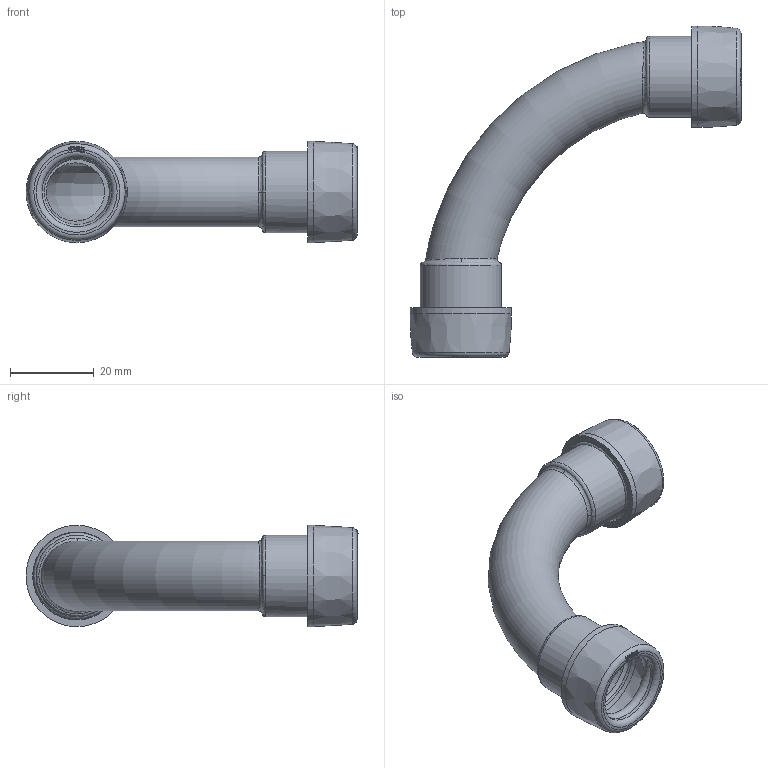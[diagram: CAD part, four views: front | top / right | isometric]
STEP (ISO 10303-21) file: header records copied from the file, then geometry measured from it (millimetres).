
FILE_DESCRIPTION(/* description */ (''),/* implementation_level */ '2;1');
FILE_NAME(/* name */ '4009413.stp',/* time_stamp */ '2017-10-02T08:14:44+02:00',/* author */ (''),/* organization */ (''),/* preprocessor_version */ 'ST-DEVELOPER v16',/* originating_system */ 'SIEMENS PLM Software NX 11.0',/* authorisation */ '');
FILE_SCHEMA (('AUTOMOTIVE_DESIGN { 1 0 10303 214 3 1 1 1 }'));
Length unit declared in the file: millimetre
Products named in the file (1): 4009413_LINKEDEXT_jt
Bounding box: 79.2 x 79.23 x 24.2 mm (x, y, z)
Surface area: 11768.2 mm2 (no closed solid volume)
Topology: 0 solids, 14 shells, 47 faces, 257 edges, 216 vertices
Faces by surface type: torus 18, plane 12, bspline 9, cylinder 6, cone 2
Full cylindrical faces by diameter (mm): 19.4 x2, 21 x2, 24.2 x2
Entity records: 4424 total; most frequent: CARTESIAN_POINT 2566, ORIENTED_EDGE 286, EDGE_CURVE 229, VERTEX_POINT 210, DIRECTION 190, B_SPLINE_CURVE_WITH_KNOTS 160, AXIS2_PLACEMENT_3D 82, EDGE_LOOP 69
